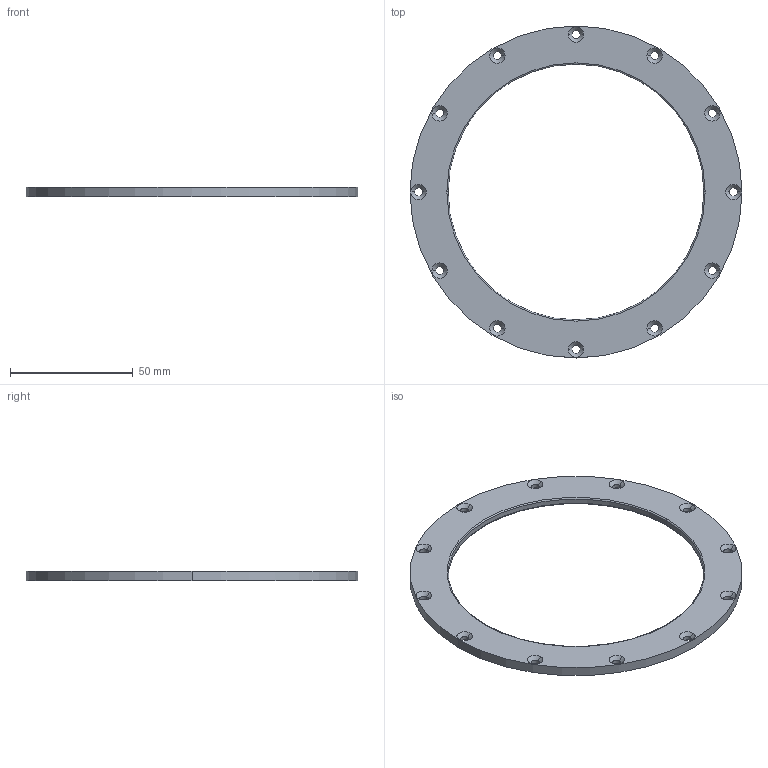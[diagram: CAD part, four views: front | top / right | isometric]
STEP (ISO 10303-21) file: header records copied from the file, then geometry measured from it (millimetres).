
FILE_DESCRIPTION (( 'STEP AP203' ), '1' );
FILE_NAME ('polarizer-cover-V2.STEP', '2024-07-01T06:43:21', ( '' ), ( '' ), 'SwSTEP 2.0', 'SolidWorks 2021', '' );
FILE_SCHEMA (( 'CONFIG_CONTROL_DESIGN' ));
Length unit declared in the file: millimetre
Products named in the file (1): polarizer-cover-V2
Bounding box: 135 x 135 x 4 mm (x, y, z)
Volume: 16240.5 mm3; surface area: 15785.6 mm2
Topology: 1 solids, 1 shells, 67 faces, 158 edges, 96 vertices
Faces by surface type: cylinder 34, cone 24, plane 5, torus 4
Entity records: 2077 total; most frequent: DIRECTION 394, CARTESIAN_POINT 322, ORIENTED_EDGE 316, AXIS2_PLACEMENT_3D 168, EDGE_CURVE 158, CIRCLE 100, EDGE_LOOP 96, VERTEX_POINT 96
